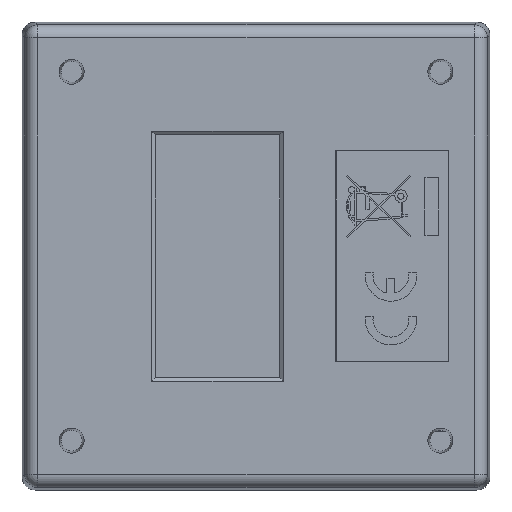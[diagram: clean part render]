
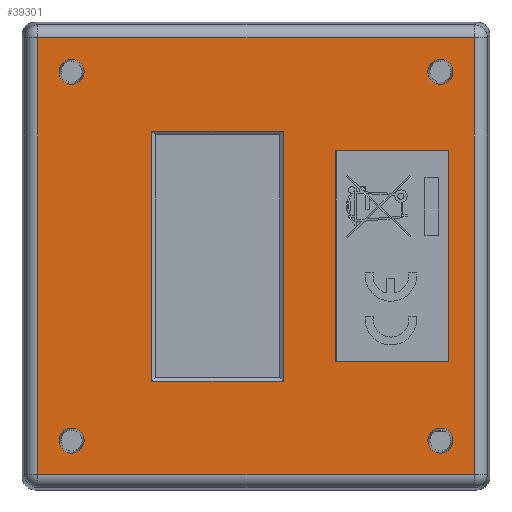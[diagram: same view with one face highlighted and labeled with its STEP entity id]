
A CAD part, front view. The second image highlights one B-rep face of the part: STEP entity #39301.
In plain terms, the highlighted planar face has unit normal (0, -1, 0) as drawn and (0, 0, -1) by its records, which use the part's own axes.
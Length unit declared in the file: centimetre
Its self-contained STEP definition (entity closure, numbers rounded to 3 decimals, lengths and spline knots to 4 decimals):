
#18719=CIRCLE('',#40526,0.1209);
#18720=CIRCLE('',#40527,0.1209);
#18721=CIRCLE('',#40528,0.1209);
#18722=CIRCLE('',#40529,0.1209);
#19736=VERTEX_POINT('',#49267);
#19737=VERTEX_POINT('',#49269);
#19739=VERTEX_POINT('',#49275);
#19741=VERTEX_POINT('',#49281);
#19836=VERTEX_POINT('',#49627);
#19837=VERTEX_POINT('',#49629);
#19839=VERTEX_POINT('',#49635);
#19841=VERTEX_POINT('',#49641);
#19962=VERTEX_POINT('',#50713);
#19963=VERTEX_POINT('',#50715);
#19964=VERTEX_POINT('',#50717);
#19965=VERTEX_POINT('',#50719);
#19966=VERTEX_POINT('',#50721);
#19967=VERTEX_POINT('',#50722);
#19968=VERTEX_POINT('',#50724);
#19969=VERTEX_POINT('',#50726);
#21927=VECTOR('',#42980,1.);
#21930=VECTOR('',#42984,1.);
#21933=VECTOR('',#42988,1.);
#21936=VECTOR('',#42992,1.);
#22066=VECTOR('',#43186,1.);
#22069=VECTOR('',#43190,1.);
#22072=VECTOR('',#43194,1.);
#22075=VECTOR('',#43198,1.);
#22236=VECTOR('',#43431,1.);
#22237=VECTOR('',#43432,1.);
#22238=VECTOR('',#43433,1.);
#22239=VECTOR('',#43434,1.);
#24509=LINE('',#49268,#21927);
#24512=LINE('',#49274,#21930);
#24515=LINE('',#49280,#21933);
#24518=LINE('',#49285,#21936);
#24648=LINE('',#49628,#22066);
#24651=LINE('',#49634,#22069);
#24654=LINE('',#49640,#22072);
#24657=LINE('',#49645,#22075);
#24818=LINE('',#50720,#22236);
#24819=LINE('',#50723,#22237);
#24820=LINE('',#50725,#22238);
#24821=LINE('',#50727,#22239);
#27166=EDGE_CURVE('',#19737,#19736,#24509,.T.);
#27169=EDGE_CURVE('',#19739,#19737,#24512,.T.);
#27172=EDGE_CURVE('',#19741,#19739,#24515,.T.);
#27175=EDGE_CURVE('',#19736,#19741,#24518,.T.);
#27315=EDGE_CURVE('',#19837,#19836,#24648,.F.);
#27318=EDGE_CURVE('',#19839,#19837,#24651,.F.);
#27321=EDGE_CURVE('',#19841,#19839,#24654,.F.);
#27324=EDGE_CURVE('',#19836,#19841,#24657,.F.);
#27505=EDGE_CURVE('',#19962,#19962,#18719,.F.);
#27506=EDGE_CURVE('',#19963,#19963,#18720,.F.);
#27507=EDGE_CURVE('',#19964,#19964,#18721,.F.);
#27508=EDGE_CURVE('',#19965,#19965,#18722,.F.);
#27509=EDGE_CURVE('',#19966,#19967,#24818,.T.);
#27510=EDGE_CURVE('',#19968,#19966,#24819,.T.);
#27511=EDGE_CURVE('',#19969,#19968,#24820,.T.);
#27512=EDGE_CURVE('',#19967,#19969,#24821,.T.);
#31508=ORIENTED_EDGE('',*,*,#27166,.T.);
#31509=ORIENTED_EDGE('',*,*,#27175,.T.);
#31510=ORIENTED_EDGE('',*,*,#27172,.T.);
#31511=ORIENTED_EDGE('',*,*,#27169,.T.);
#31512=ORIENTED_EDGE('',*,*,#27505,.T.);
#31513=ORIENTED_EDGE('',*,*,#27506,.T.);
#31514=ORIENTED_EDGE('',*,*,#27507,.T.);
#31515=ORIENTED_EDGE('',*,*,#27508,.T.);
#31516=ORIENTED_EDGE('',*,*,#27509,.F.);
#31517=ORIENTED_EDGE('',*,*,#27510,.F.);
#31518=ORIENTED_EDGE('',*,*,#27511,.F.);
#31519=ORIENTED_EDGE('',*,*,#27512,.F.);
#31520=ORIENTED_EDGE('',*,*,#27315,.T.);
#31521=ORIENTED_EDGE('',*,*,#27324,.T.);
#31522=ORIENTED_EDGE('',*,*,#27321,.T.);
#31523=ORIENTED_EDGE('',*,*,#27318,.T.);
#36588=EDGE_LOOP('',(#31508,#31509,#31510,#31511));
#36589=EDGE_LOOP('',(#31512));
#36590=EDGE_LOOP('',(#31513));
#36591=EDGE_LOOP('',(#31514));
#36592=EDGE_LOOP('',(#31515));
#36593=EDGE_LOOP('',(#31516,#31517,#31518,#31519));
#36594=EDGE_LOOP('',(#31520,#31521,#31522,#31523));
#37958=FACE_BOUND('',#36588,.T.);
#37959=FACE_BOUND('',#36589,.T.);
#37960=FACE_BOUND('',#36590,.T.);
#37961=FACE_BOUND('',#36591,.T.);
#37962=FACE_BOUND('',#36592,.T.);
#37963=FACE_BOUND('',#36593,.T.);
#37964=FACE_BOUND('',#36594,.T.);
#39301=ADVANCED_FACE('',(#37958,#37959,#37960,#37961,#37962,#37963,#37964),
#58367,.F.);
#40525=AXIS2_PLACEMENT_3D('',#50711,#43422,$);
#40526=AXIS2_PLACEMENT_3D('',#50712,#43423,#43424);
#40527=AXIS2_PLACEMENT_3D('',#50714,#43425,#43426);
#40528=AXIS2_PLACEMENT_3D('',#50716,#43427,#43428);
#40529=AXIS2_PLACEMENT_3D('',#50718,#43429,#43430);
#42980=DIRECTION('',(1.,0.,0.));
#42984=DIRECTION('',(0.,-1.,0.));
#42988=DIRECTION('',(-1.,0.,0.));
#42992=DIRECTION('',(0.,1.,0.));
#43186=DIRECTION('',(-1.,0.,0.));
#43190=DIRECTION('',(0.,1.,0.));
#43194=DIRECTION('',(1.,0.,0.));
#43198=DIRECTION('',(0.,-1.,0.));
#43422=DIRECTION('',(0.,0.,1.));
#43423=DIRECTION('',(0.,0.,-1.));
#43424=DIRECTION('',(-0.121,0.,0.));
#43425=DIRECTION('',(0.,0.,-1.));
#43426=DIRECTION('',(-0.121,0.,0.));
#43427=DIRECTION('',(0.,0.,-1.));
#43428=DIRECTION('',(-0.121,0.,0.));
#43429=DIRECTION('',(0.,0.,-1.));
#43430=DIRECTION('',(-0.121,0.,0.));
#43431=DIRECTION('',(-1.,0.,0.));
#43432=DIRECTION('',(0.,1.,0.));
#43433=DIRECTION('',(1.,0.,0.));
#43434=DIRECTION('',(0.,-1.,0.));
#49267=CARTESIAN_POINT('',(1.2065,-0.2639,-0.0032));
#49268=CARTESIAN_POINT('',(0.6033,-0.2639,-0.0032));
#49269=CARTESIAN_POINT('',(-1.2065,-0.2639,-0.0032));
#49274=CARTESIAN_POINT('',(-1.2065,-0.1319,-0.0032));
#49275=CARTESIAN_POINT('',(-1.2065,1.0061,-0.0032));
#49280=CARTESIAN_POINT('',(-0.6032,1.0061,-0.0032));
#49281=CARTESIAN_POINT('',(1.2065,1.0061,-0.0032));
#49285=CARTESIAN_POINT('',(1.2065,0.5031,-0.0032));
#49627=CARTESIAN_POINT('',(1.0178,-1.8531,-0.0032));
#49628=CARTESIAN_POINT('',(0.,-1.8531,-0.0032));
#49629=CARTESIAN_POINT('',(-1.0178,-1.8531,-0.0032));
#49634=CARTESIAN_POINT('',(-1.0178,-0.3279,-0.0032));
#49635=CARTESIAN_POINT('',(-1.0178,-0.7701,-0.0032));
#49640=CARTESIAN_POINT('',(0.,-0.7701,-0.0032));
#49641=CARTESIAN_POINT('',(1.0178,-0.7701,-0.0032));
#49645=CARTESIAN_POINT('',(1.0178,-0.3279,-0.0032));
#50711=CARTESIAN_POINT('',(0.,0.,
-0.0032));
#50712=CARTESIAN_POINT('',(1.778,1.778,-0.0032));
#50713=CARTESIAN_POINT('',(1.8989,1.778,-0.0032));
#50714=CARTESIAN_POINT('',(1.778,-1.778,-0.0032));
#50715=CARTESIAN_POINT('',(1.8989,-1.778,-0.0032));
#50716=CARTESIAN_POINT('',(-1.778,-1.778,-0.0032));
#50717=CARTESIAN_POINT('',(-1.6571,-1.778,-0.0032));
#50718=CARTESIAN_POINT('',(-1.778,1.778,-0.0032));
#50719=CARTESIAN_POINT('',(-1.6571,1.778,-0.0032));
#50720=CARTESIAN_POINT('',(0.,2.1054,-0.0032));
#50721=CARTESIAN_POINT('',(2.1054,2.1054,-0.0032));
#50722=CARTESIAN_POINT('',(-2.1054,2.1054,-0.0032));
#50723=CARTESIAN_POINT('',(2.1054,0.,-0.0032));
#50724=CARTESIAN_POINT('',(2.1054,-2.1054,-0.0032));
#50725=CARTESIAN_POINT('',(0.,-2.1054,-0.0032));
#50726=CARTESIAN_POINT('',(-2.1054,-2.1054,-0.0032));
#50727=CARTESIAN_POINT('',(-2.1054,0.,-0.0032));
#58367=PLANE('',#40525);
